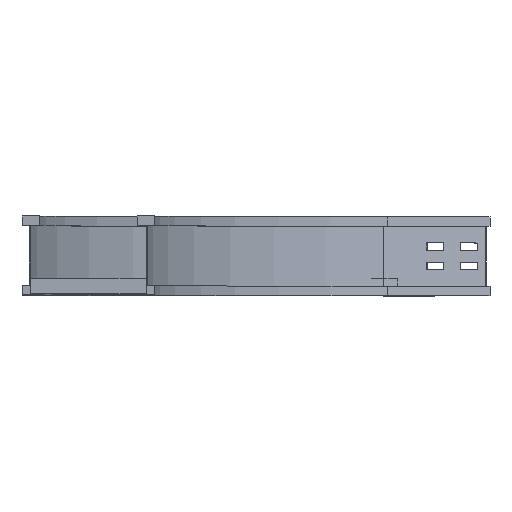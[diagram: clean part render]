
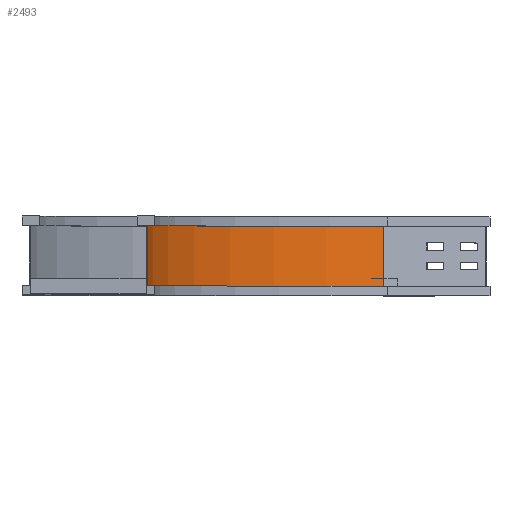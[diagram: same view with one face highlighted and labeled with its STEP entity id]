
A CAD part, top view. The second image highlights one B-rep face of the part: STEP entity #2493.
In plain terms, the highlighted cylindrical face has radius 600 mm (diameter 1200 mm), a partial arc.
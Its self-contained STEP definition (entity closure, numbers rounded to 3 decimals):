
#79 = CARTESIAN_POINT ( 'NONE',  ( -9., 12., -150. ) ) ;
#262 = FACE_OUTER_BOUND ( 'NONE', #1473, .T. ) ;
#288 = DIRECTION ( 'NONE',  ( 0., 0., -1. ) ) ;
#308 = CIRCLE ( 'NONE', #2599, 600. ) ;
#424 = AXIS2_PLACEMENT_3D ( 'NONE', #4345, #2971, #3637 ) ;
#617 = EDGE_CURVE ( 'NONE', #2425, #3138, #2141, .T. ) ;
#646 = DIRECTION ( 'NONE',  ( 0., -1., 0. ) ) ;
#974 = VERTEX_POINT ( 'NONE', #1487 ) ;
#1046 = VECTOR ( 'NONE', #1471, 1000. ) ;
#1258 = DIRECTION ( 'NONE',  ( -1., 0., 0. ) ) ;
#1285 = CARTESIAN_POINT ( 'NONE',  ( 291., 12., -669.615 ) ) ;
#1435 = CIRCLE ( 'NONE', #424, 600. ) ;
#1471 = DIRECTION ( 'NONE',  ( 0., 1., 0. ) ) ;
#1473 = EDGE_LOOP ( 'NONE', ( #4209, #3886, #1740, #2210 ) ) ;
#1487 = CARTESIAN_POINT ( 'NONE',  ( 291., 88., -669.615 ) ) ;
#1740 = ORIENTED_EDGE ( 'NONE', *, *, #3757, .T. ) ;
#1907 = VERTEX_POINT ( 'NONE', #3453 ) ;
#2141 = LINE ( 'NONE', #79, #1046 ) ;
#2210 = ORIENTED_EDGE ( 'NONE', *, *, #4193, .T. ) ;
#2425 = VERTEX_POINT ( 'NONE', #2910 ) ;
#2493 = ADVANCED_FACE ( 'NONE', ( #262 ), #3701, .F. ) ;
#2544 = CARTESIAN_POINT ( 'NONE',  ( -9., 88., -150. ) ) ;
#2599 = AXIS2_PLACEMENT_3D ( 'NONE', #4072, #4374, #1258 ) ;
#2910 = CARTESIAN_POINT ( 'NONE',  ( -9., 12., -150. ) ) ;
#2933 = LINE ( 'NONE', #1285, #3450 ) ;
#2956 = EDGE_CURVE ( 'NONE', #3138, #974, #308, .T. ) ;
#2971 = DIRECTION ( 'NONE',  ( 0., -1., 0. ) ) ;
#3138 = VERTEX_POINT ( 'NONE', #2544 ) ;
#3450 = VECTOR ( 'NONE', #4058, 1000. ) ;
#3453 = CARTESIAN_POINT ( 'NONE',  ( 291., 12., -669.615 ) ) ;
#3528 = AXIS2_PLACEMENT_3D ( 'NONE', #4428, #646, #288 ) ;
#3637 = DIRECTION ( 'NONE',  ( -1., 0., 0. ) ) ;
#3701 = CYLINDRICAL_SURFACE ( 'NONE', #3528, 600. ) ;
#3757 = EDGE_CURVE ( 'NONE', #2425, #1907, #1435, .T. ) ;
#3886 = ORIENTED_EDGE ( 'NONE', *, *, #617, .F. ) ;
#4058 = DIRECTION ( 'NONE',  ( 0., 1., 0. ) ) ;
#4072 = CARTESIAN_POINT ( 'NONE',  ( 591., 88., -150. ) ) ;
#4193 = EDGE_CURVE ( 'NONE', #1907, #974, #2933, .T. ) ;
#4209 = ORIENTED_EDGE ( 'NONE', *, *, #2956, .F. ) ;
#4345 = CARTESIAN_POINT ( 'NONE',  ( 591., 12., -150. ) ) ;
#4374 = DIRECTION ( 'NONE',  ( 0., -1., 0. ) ) ;
#4428 = CARTESIAN_POINT ( 'NONE',  ( 591., 0., -150. ) ) ;
